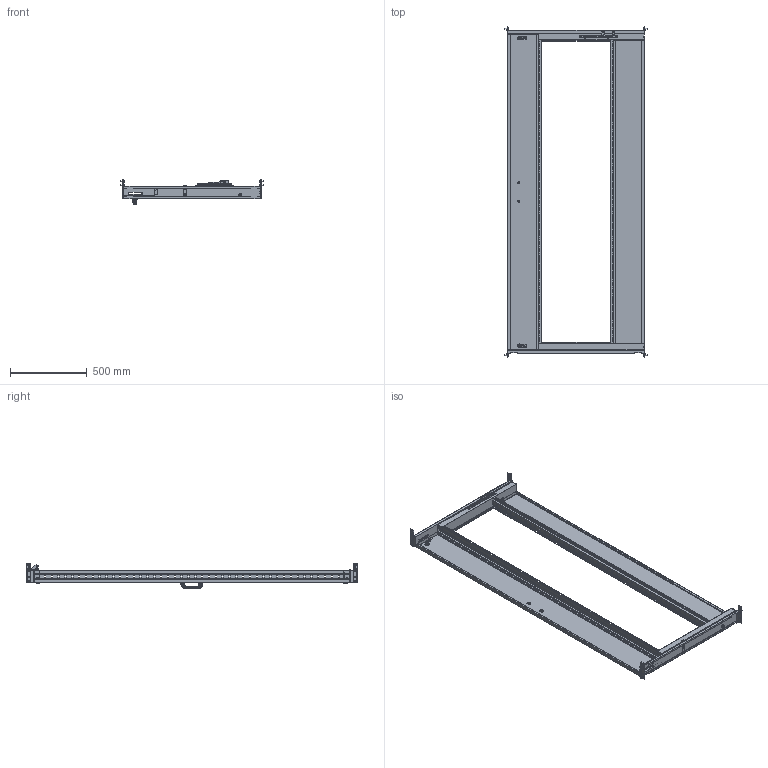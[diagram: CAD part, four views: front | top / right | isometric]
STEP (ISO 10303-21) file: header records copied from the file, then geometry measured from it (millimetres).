
FILE_DESCRIPTION(('Open CASCADE Model'),'2;1');
FILE_NAME('Open CASCADE Shape Model','2025-03-20T14:54:42',('Author'),( 'Open CASCADE'),'Open CASCADE STEP processor 7.8','Open CASCADE 7.8' ,'Unknown');
FILE_SCHEMA(('AUTOMOTIVE_DESIGN { 1 0 10303 214 1 1 1 1 }'));
Length unit declared in the file: millimetre
Products named in the file (37): Compound1; Compound2; Solid1; Solid2; Solid3; Compound3; Solid4; Solid5; Solid6; Solid7; Solid8; Solid9; Solid10; Solid11; Solid12; Solid13; Solid14; Solid15; Solid16; Solid17; Solid18; Compound4; Solid19; Solid20; Solid21; Solid22; Solid23; Solid24; Solid25; Solid26; Solid27; Solid28; Compound5; Solid29; Solid30; Solid31; Solid32
Assembly tree (59 placements, depth 3):
  Compound1
    Compound2
      Solid1
      Solid2  x2
      Solid3
    Compound3
      Solid4
      Solid2  x2
      Solid3
    Solid5  x2
    Solid6  x2
    Solid7
    Solid8
    Solid9
    Solid10
    Solid11
    Solid12
    Solid13  x2
    Solid14  x4
    Solid15  x8
    Solid16
    Solid17  x2
    Solid18  x2
    Compound4
      Solid19
      Solid20
      Solid21
      Solid22  x2
      Solid23
      Solid24  x2
      Solid25
      Solid26
      Solid27  x2
      Solid28  x2
    Compound5
      Solid29
      Solid30
    Solid31
    Solid32
Bounding box: 926 x 2155 x 165.5 mm (x, y, z)
Volume: 3592797.3 mm3; surface area: 4627667.5 mm2
Topology: 57 solids, 75 shells, 6349 faces, 17812 edges, 11555 vertices
Faces by surface type: plane 4272, cylinder 714, bspline 670, cone 439, torus 176, sphere 78
Entity records: 193004 total; most frequent: CARTESIAN_POINT 60430, ORIENTED_EDGE 28931, DIRECTION 23719, EDGE_CURVE 14645, LINE 11199, VECTOR 11199, VERTEX_POINT 9538, FACE_BOUND 6596
